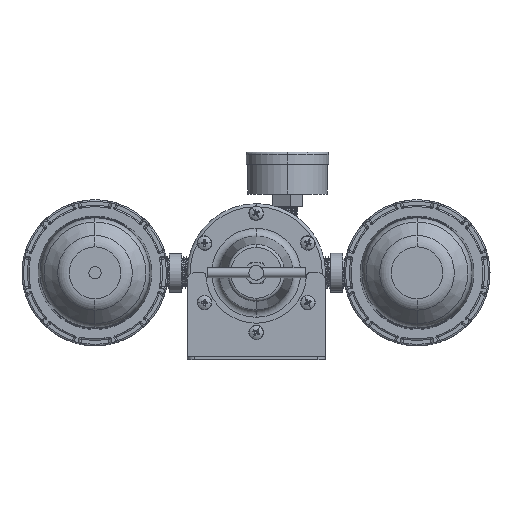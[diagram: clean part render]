
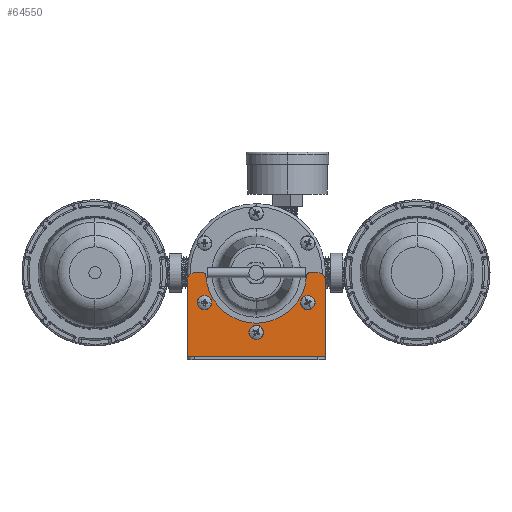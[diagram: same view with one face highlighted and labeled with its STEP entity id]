
A CAD part, front view. The second image highlights one B-rep face of the part: STEP entity #64550.
In plain terms, the highlighted planar face has unit normal (0, -1, 0) as drawn and (0, 1, 0) by its records, which use the part's own axes.
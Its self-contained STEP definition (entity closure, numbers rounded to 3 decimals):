
#620 = CARTESIAN_POINT ( 'NONE',  ( 40.25, 2., 57. ) ) ;
#690 = AXIS2_PLACEMENT_3D ( 'NONE', #23277, #3560, #28307 ) ;
#747 = AXIS2_PLACEMENT_3D ( 'NONE', #41051, #41258, #50933 ) ;
#923 = EDGE_CURVE ( 'NONE', #55658, #54362, #12954, .T. ) ;
#1015 = CARTESIAN_POINT ( 'NONE',  ( 33.775, 2., 34.1 ) ) ;
#1642 = AXIS2_PLACEMENT_3D ( 'NONE', #57904, #8218, #42554 ) ;
#1743 = VERTEX_POINT ( 'NONE', #33808 ) ;
#2149 = DIRECTION ( 'NONE',  ( 0., 0., 1. ) ) ;
#2173 = DIRECTION ( 'NONE',  ( 0., 1., 0. ) ) ;
#3534 = VERTEX_POINT ( 'NONE', #17210 ) ;
#3560 = DIRECTION ( 'NONE',  ( 0., 1., 0. ) ) ;
#4867 = EDGE_CURVE ( 'NONE', #16096, #42543, #29733, .T. ) ;
#5456 = EDGE_CURVE ( 'NONE', #54362, #54431, #49293, .T. ) ;
#6768 = CARTESIAN_POINT ( 'NONE',  ( 32.946, 2., 55.114 ) ) ;
#7469 = DIRECTION ( 'NONE',  ( 1., 0., 0. ) ) ;
#7936 = EDGE_CURVE ( 'NONE', #57983, #42661, #59314, .T. ) ;
#7937 = ORIENTED_EDGE ( 'NONE', *, *, #923, .T. ) ;
#8153 = VECTOR ( 'NONE', #55345, 1000. ) ;
#8218 = DIRECTION ( 'NONE',  ( 0., 1., 0. ) ) ;
#8720 = CARTESIAN_POINT ( 'NONE',  ( -45.25, 2., 52. ) ) ;
#9163 = VERTEX_POINT ( 'NONE', #9369 ) ;
#9369 = CARTESIAN_POINT ( 'NONE',  ( -33.775, 2., 34.1 ) ) ;
#10231 = FACE_BOUND ( 'NONE', #56633, .T. ) ;
#10702 = VECTOR ( 'NONE', #32988, 1000. ) ;
#11409 = VERTEX_POINT ( 'NONE', #12143 ) ;
#11860 = EDGE_LOOP ( 'NONE', ( #63679, #30718 ) ) ;
#12143 = CARTESIAN_POINT ( 'NONE',  ( 45.25, 2., 2. ) ) ;
#12402 = EDGE_CURVE ( 'NONE', #30798, #9163, #20064, .T. ) ;
#12954 = CIRCLE ( 'NONE', #747, 5. ) ;
#13643 = AXIS2_PLACEMENT_3D ( 'NONE', #49750, #14720, #30421 ) ;
#14308 = DIRECTION ( 'NONE',  ( 1., 0., 0. ) ) ;
#14648 = EDGE_CURVE ( 'NONE', #42464, #11409, #22221, .T. ) ;
#14720 = DIRECTION ( 'NONE',  ( 0., 1., 0. ) ) ;
#15193 = CIRCLE ( 'NONE', #46099, 3.4 ) ;
#15475 = EDGE_CURVE ( 'NONE', #42661, #57983, #44469, .T. ) ;
#16045 = AXIS2_PLACEMENT_3D ( 'NONE', #35593, #36254, #20761 ) ;
#16096 = VERTEX_POINT ( 'NONE', #6768 ) ;
#16428 = AXIS2_PLACEMENT_3D ( 'NONE', #56839, #63899, #48906 ) ;
#16491 = CIRCLE ( 'NONE', #60651, 2. ) ;
#17146 = VECTOR ( 'NONE', #21151, 1000. ) ;
#17210 = CARTESIAN_POINT ( 'NONE',  ( 45.25, 2., 52. ) ) ;
#17326 = ORIENTED_EDGE ( 'NONE', *, *, #14648, .F. ) ;
#17986 = CARTESIAN_POINT ( 'NONE',  ( -45.25, 2., 57. ) ) ;
#19664 = FACE_BOUND ( 'NONE', #11860, .T. ) ;
#20064 = CIRCLE ( 'NONE', #1642, 3.4 ) ;
#20090 = ORIENTED_EDGE ( 'NONE', *, *, #5456, .T. ) ;
#20647 = AXIS2_PLACEMENT_3D ( 'NONE', #55005, #44904, #54585 ) ;
#20761 = DIRECTION ( 'NONE',  ( 0., 0., 1. ) ) ;
#21151 = DIRECTION ( 'NONE',  ( 0., 0., 1. ) ) ;
#21510 = AXIS2_PLACEMENT_3D ( 'NONE', #40130, #45209, #30521 ) ;
#22221 = LINE ( 'NONE', #49427, #8153 ) ;
#23277 = CARTESIAN_POINT ( 'NONE',  ( 40.25, 2., 52. ) ) ;
#23766 = EDGE_CURVE ( 'NONE', #54431, #42543, #46160, .T. ) ;
#24213 = DIRECTION ( 'NONE',  ( 0., 0., 1. ) ) ;
#24647 = CARTESIAN_POINT ( 'NONE',  ( 0., 2., 18. ) ) ;
#25568 = PLANE ( 'NONE',  #16045 ) ;
#26562 = LINE ( 'NONE', #17986, #41432 ) ;
#27768 = CARTESIAN_POINT ( 'NONE',  ( -34.943, 2., 57. ) ) ;
#27959 = CARTESIAN_POINT ( 'NONE',  ( 0., 2., 14.6 ) ) ;
#28307 = DIRECTION ( 'NONE',  ( 0., 0., 1. ) ) ;
#29476 = VERTEX_POINT ( 'NONE', #620 ) ;
#29641 = EDGE_CURVE ( 'NONE', #9163, #30798, #15193, .T. ) ;
#29733 = CIRCLE ( 'NONE', #21510, 33. ) ;
#30421 = DIRECTION ( 'NONE',  ( 0., 0., 1. ) ) ;
#30521 = DIRECTION ( 'NONE',  ( 0., 0., 1. ) ) ;
#30718 = ORIENTED_EDGE ( 'NONE', *, *, #29641, .F. ) ;
#30798 = VERTEX_POINT ( 'NONE', #63485 ) ;
#31128 = EDGE_CURVE ( 'NONE', #1743, #34418, #62915, .T. ) ;
#31429 = ORIENTED_EDGE ( 'NONE', *, *, #37482, .T. ) ;
#32367 = DIRECTION ( 'NONE',  ( 0., 0., 1. ) ) ;
#32945 = ORIENTED_EDGE ( 'NONE', *, *, #15475, .F. ) ;
#32988 = DIRECTION ( 'NONE',  ( 0., 0., -1. ) ) ;
#33808 = CARTESIAN_POINT ( 'NONE',  ( 33.775, 2., 40.9 ) ) ;
#34418 = VERTEX_POINT ( 'NONE', #1015 ) ;
#34588 = ORIENTED_EDGE ( 'NONE', *, *, #46548, .F. ) ;
#35446 = EDGE_CURVE ( 'NONE', #16096, #48506, #16491, .T. ) ;
#35593 = CARTESIAN_POINT ( 'NONE',  ( 0., 2., 0. ) ) ;
#35724 = ORIENTED_EDGE ( 'NONE', *, *, #35446, .T. ) ;
#36254 = DIRECTION ( 'NONE',  ( 0., 1., 0. ) ) ;
#36933 = CARTESIAN_POINT ( 'NONE',  ( -33.775, 2., 37.5 ) ) ;
#37482 = EDGE_CURVE ( 'NONE', #48506, #29476, #26562, .T. ) ;
#38619 = ORIENTED_EDGE ( 'NONE', *, *, #7936, .F. ) ;
#38809 = EDGE_CURVE ( 'NONE', #42464, #55658, #57094, .T. ) ;
#39275 = EDGE_LOOP ( 'NONE', ( #31429, #55415, #47930, #17326, #40999, #7937, #20090, #40262, #48971, #35724 ) ) ;
#39829 = CARTESIAN_POINT ( 'NONE',  ( 34.943, 2., 55. ) ) ;
#40130 = CARTESIAN_POINT ( 'NONE',  ( 0., 2., 57. ) ) ;
#40262 = ORIENTED_EDGE ( 'NONE', *, *, #23766, .T. ) ;
#40719 = CIRCLE ( 'NONE', #690, 5. ) ;
#40999 = ORIENTED_EDGE ( 'NONE', *, *, #38809, .T. ) ;
#41051 = CARTESIAN_POINT ( 'NONE',  ( -40.25, 2., 52. ) ) ;
#41258 = DIRECTION ( 'NONE',  ( 0., 1., 0. ) ) ;
#41432 = VECTOR ( 'NONE', #7469, 1000. ) ;
#42464 = VERTEX_POINT ( 'NONE', #53062 ) ;
#42543 = VERTEX_POINT ( 'NONE', #58735 ) ;
#42554 = DIRECTION ( 'NONE',  ( 0., 0., 1. ) ) ;
#42661 = VERTEX_POINT ( 'NONE', #45769 ) ;
#44247 = CARTESIAN_POINT ( 'NONE',  ( -45.25, 2., 57. ) ) ;
#44469 = CIRCLE ( 'NONE', #20647, 3.4 ) ;
#44664 = CIRCLE ( 'NONE', #61020, 3.4 ) ;
#44677 = DIRECTION ( 'NONE',  ( 0., 1., 0. ) ) ;
#44904 = DIRECTION ( 'NONE',  ( 0., 1., 0. ) ) ;
#45209 = DIRECTION ( 'NONE',  ( 0., 1., 0. ) ) ;
#45769 = CARTESIAN_POINT ( 'NONE',  ( 0., 2., 21.4 ) ) ;
#46099 = AXIS2_PLACEMENT_3D ( 'NONE', #36933, #57160, #2149 ) ;
#46160 = CIRCLE ( 'NONE', #13643, 2. ) ;
#46548 = EDGE_CURVE ( 'NONE', #34418, #1743, #44664, .T. ) ;
#47687 = CARTESIAN_POINT ( 'NONE',  ( 33.775, 2., 37.5 ) ) ;
#47930 = ORIENTED_EDGE ( 'NONE', *, *, #55706, .T. ) ;
#48506 = VERTEX_POINT ( 'NONE', #59762 ) ;
#48906 = DIRECTION ( 'NONE',  ( 0., 0., 1. ) ) ;
#48971 = ORIENTED_EDGE ( 'NONE', *, *, #4867, .F. ) ;
#49293 = LINE ( 'NONE', #44247, #57924 ) ;
#49427 = CARTESIAN_POINT ( 'NONE',  ( 0., 2., 2. ) ) ;
#49750 = CARTESIAN_POINT ( 'NONE',  ( -34.943, 2., 55. ) ) ;
#50933 = DIRECTION ( 'NONE',  ( 0., 0., 1. ) ) ;
#50966 = EDGE_CURVE ( 'NONE', #29476, #3534, #40719, .T. ) ;
#51174 = CARTESIAN_POINT ( 'NONE',  ( -45.25, 2., 0. ) ) ;
#52235 = LINE ( 'NONE', #62870, #10702 ) ;
#53062 = CARTESIAN_POINT ( 'NONE',  ( -45.25, 2., 2. ) ) ;
#53319 = FACE_OUTER_BOUND ( 'NONE', #39275, .T. ) ;
#53938 = AXIS2_PLACEMENT_3D ( 'NONE', #24647, #58817, #24213 ) ;
#54362 = VERTEX_POINT ( 'NONE', #56272 ) ;
#54431 = VERTEX_POINT ( 'NONE', #27768 ) ;
#54585 = DIRECTION ( 'NONE',  ( 0., 0., 1. ) ) ;
#54794 = DIRECTION ( 'NONE',  ( 0., 0., 1. ) ) ;
#55005 = CARTESIAN_POINT ( 'NONE',  ( 0., 2., 18. ) ) ;
#55345 = DIRECTION ( 'NONE',  ( 1., 0., 0. ) ) ;
#55415 = ORIENTED_EDGE ( 'NONE', *, *, #50966, .T. ) ;
#55658 = VERTEX_POINT ( 'NONE', #8720 ) ;
#55706 = EDGE_CURVE ( 'NONE', #3534, #11409, #52235, .T. ) ;
#56272 = CARTESIAN_POINT ( 'NONE',  ( -40.25, 2., 57. ) ) ;
#56633 = EDGE_LOOP ( 'NONE', ( #59227, #34588 ) ) ;
#56839 = CARTESIAN_POINT ( 'NONE',  ( 33.775, 2., 37.5 ) ) ;
#57094 = LINE ( 'NONE', #51174, #17146 ) ;
#57160 = DIRECTION ( 'NONE',  ( 0., 1., 0. ) ) ;
#57904 = CARTESIAN_POINT ( 'NONE',  ( -33.775, 2., 37.5 ) ) ;
#57924 = VECTOR ( 'NONE', #14308, 1000. ) ;
#57983 = VERTEX_POINT ( 'NONE', #27959 ) ;
#58043 = FACE_BOUND ( 'NONE', #63389, .T. ) ;
#58735 = CARTESIAN_POINT ( 'NONE',  ( -32.946, 2., 55.114 ) ) ;
#58817 = DIRECTION ( 'NONE',  ( 0., 1., 0. ) ) ;
#59227 = ORIENTED_EDGE ( 'NONE', *, *, #31128, .F. ) ;
#59314 = CIRCLE ( 'NONE', #53938, 3.4 ) ;
#59762 = CARTESIAN_POINT ( 'NONE',  ( 34.943, 2., 57. ) ) ;
#60651 = AXIS2_PLACEMENT_3D ( 'NONE', #39829, #44677, #54794 ) ;
#61020 = AXIS2_PLACEMENT_3D ( 'NONE', #47687, #2173, #32367 ) ;
#62870 = CARTESIAN_POINT ( 'NONE',  ( 45.25, 2., 0. ) ) ;
#62915 = CIRCLE ( 'NONE', #16428, 3.4 ) ;
#63389 = EDGE_LOOP ( 'NONE', ( #32945, #38619 ) ) ;
#63485 = CARTESIAN_POINT ( 'NONE',  ( -33.775, 2., 40.9 ) ) ;
#63679 = ORIENTED_EDGE ( 'NONE', *, *, #12402, .F. ) ;
#63899 = DIRECTION ( 'NONE',  ( 0., 1., 0. ) ) ;
#64550 = ADVANCED_FACE ( 'NONE', ( #10231, #58043, #19664, #53319 ), #25568, .T. ) ;
